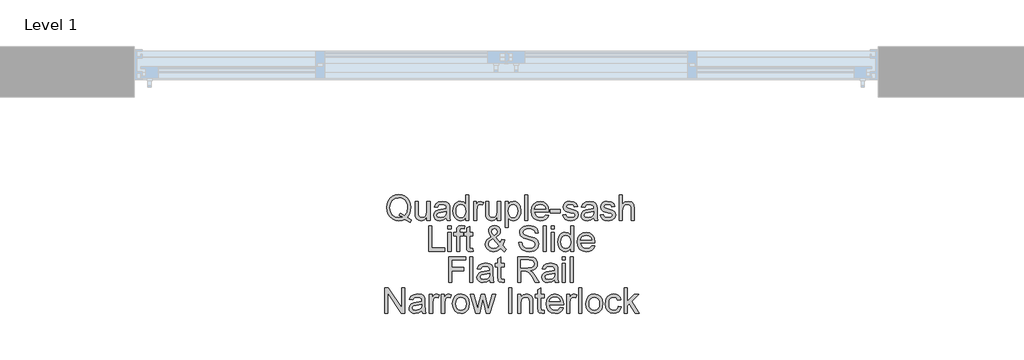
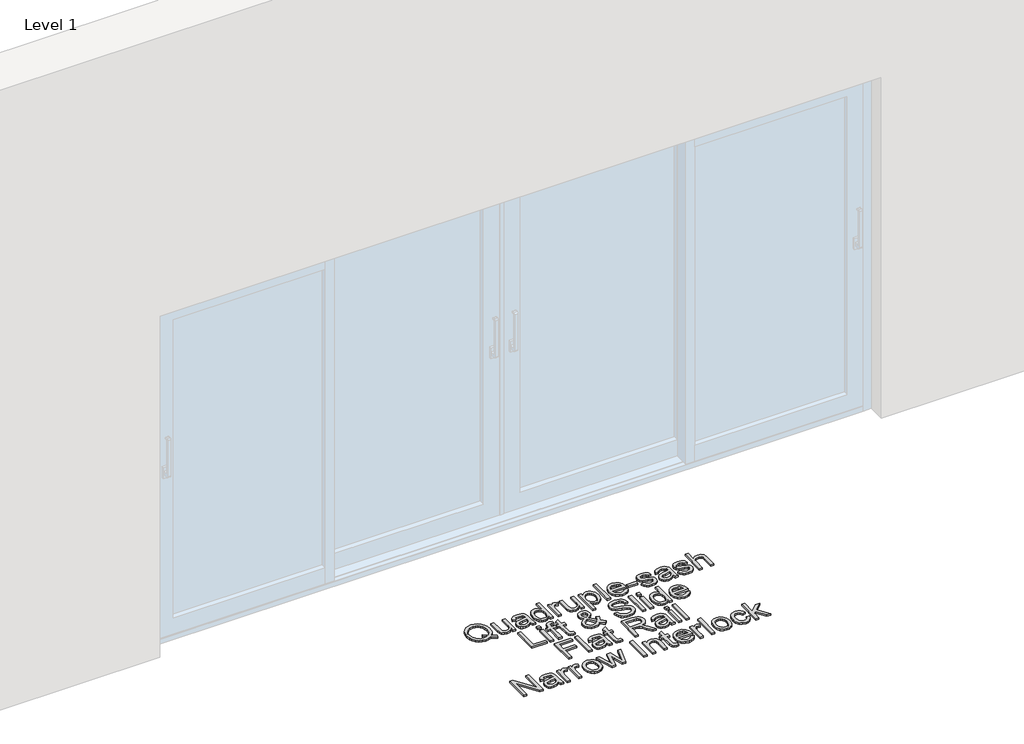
# One storey, part 6 of 7: 1 proxy.
"""IFC4 building model written with IfcOpenShell, lengths in millimetres."""

import ifcopenshell
import ifcopenshell.guid

model = None  # the IFC model being written
_history = None  # IfcOwnerHistory: only IFC2X3 demands one
_inside = {}  # id of a spatial element -> (the spatial element, [elements in it])
_under = {}  # id of a project, library or spatial element -> (it, [spatial elements below it])
_declared = {}  # id of a project -> (the project, [libraries it declares])
_typed = {}  # id of a type object -> (the type object, [elements of that type])
_made_of = {}  # id of a material, layer set ... -> (it, [elements and type objects made of it])


def new_model(schema):
    """Start an empty IFC model of exactly this schema.

    Asked for "IFC4X3", IfcOpenShell would pick the latest addendum, in which some entities
    have other attributes; the version numbers below select the first issue.
    IFC2X3 requires an IfcOwnerHistory on every rooted entity: one is made here for all.
    """
    global model, _history
    if schema == "IFC4X3":
        model = ifcopenshell.file(schema_version=(4, 3, 0, 0))
    else:
        model = ifcopenshell.file(schema=schema)
    _inside.clear()
    _under.clear()
    _declared.clear()
    _typed.clear()
    _made_of.clear()
    _history = None
    if model.schema == "IFC2X3":
        org = make("IfcOrganization", Name="unknown")
        user = make(
            "IfcPersonAndOrganization",
            ThePerson=make("IfcPerson", FamilyName="unknown"),
            TheOrganization=org,
        )
        app = make(
            "IfcApplication",
            ApplicationDeveloper=org,
            Version="unknown",
            ApplicationFullName="unknown",
            ApplicationIdentifier="unknown",
        )
        _history = make(
            "IfcOwnerHistory",
            OwningUser=user,
            OwningApplication=app,
            ChangeAction="ADDED",
            CreationDate=0,
        )
    return model


def make(cls, **values):
    """One entity of the class cls with the attributes given. An attribute that is None is left unset."""
    return model.create_entity(
        cls, **{name: value for name, value in values.items() if value is not None}
    )


def rooted(cls, **values):
    """An entity with a GlobalId (a new one), such as an element, a storey or a relation."""
    return make(cls, GlobalId=ifcopenshell.guid.new(), OwnerHistory=_history, **values)


def si_unit(unit_type, name, prefix=None):
    """IfcSIUnit, for example si_unit("LENGTHUNIT", "METRE", prefix="MILLI")."""
    return make("IfcSIUnit", UnitType=unit_type, Prefix=prefix, Name=name)


def assignment(units):
    """IfcUnitAssignment: the units of a project."""
    return None if units is None else make("IfcUnitAssignment", Units=units)


def point(xyz):
    """IfcCartesianPoint."""
    return None if xyz is None else make("IfcCartesianPoint", Coordinates=xyz)


def direction(xyz):
    """IfcDirection."""
    return None if xyz is None else make("IfcDirection", DirectionRatios=xyz)


def frame(location, z_axis=None, x_axis=None):
    """IfcAxis2Placement3D, a coordinate frame: its origin and axes. An axis left out is left unset."""
    return make(
        "IfcAxis2Placement3D",
        Location=point(location),
        Axis=direction(z_axis),
        RefDirection=direction(x_axis),
    )


def origin():
    """The frame at (0, 0, 0) with its axes left unset."""
    return frame((0.0, 0.0, 0.0))


def origin_with_axes():
    """The frame at (0, 0, 0) with the z axis (0, 0, 1) and the x axis (1, 0, 0) written out."""
    return frame((0.0, 0.0, 0.0), z_axis=(0.0, 0.0, 1.0), x_axis=(1.0, 0.0, 0.0))


def place(relative_to, where):
    """IfcLocalPlacement: puts the frame where relative to a parent placement (None: the world)."""
    return make(
        "IfcLocalPlacement", PlacementRelTo=relative_to, RelativePlacement=where
    )


def context(
    kind, dimensions, precision=None, world=None, true_north=None, identifier=None
):
    """IfcGeometricRepresentationContext, for example the 3D "Model" context."""
    return make(
        "IfcGeometricRepresentationContext",
        ContextIdentifier=identifier,
        ContextType=kind,
        CoordinateSpaceDimension=dimensions,
        Precision=precision,
        WorldCoordinateSystem=world,
        TrueNorth=true_north,
    )


def project(units=None, contexts=None):
    """IfcProject with its units and contexts."""
    return rooted(
        "IfcProject",
        Name="project",
        RepresentationContexts=contexts,
        UnitsInContext=assignment(units),
    )


def spatial(cls, under=None, at=None, **own):
    """A site, building, storey or space (cls), placed at a placement, below another one or the project."""
    s = rooted(cls, ObjectPlacement=at, **own)
    if under is not None:
        _under.setdefault(under.id(), (under, []))[1].append(s)
    return s


def polyline(points):
    """IfcPolyline through the points."""
    return make("IfcPolyline", Points=[point(p) for p in points])


def outline(outer, holes=None, kind="AREA"):
    """IfcArbitraryClosedProfileDef: a profile drawn as a closed curve; with holes, ...WithVoids."""
    if holes is None:
        return make("IfcArbitraryClosedProfileDef", ProfileType=kind, OuterCurve=outer)
    return make(
        "IfcArbitraryProfileDefWithVoids",
        ProfileType=kind,
        OuterCurve=outer,
        InnerCurves=holes,
    )


def extrude(swept, where, along, depth):
    """IfcExtrudedAreaSolid: the profile swept, set in the frame where, extruded along a direction by depth."""
    return make(
        "IfcExtrudedAreaSolid",
        SweptArea=swept,
        Position=where,
        ExtrudedDirection=direction(along),
        Depth=depth,
    )


def shape(context_of_items, identifier, shape_type, items):
    """IfcShapeRepresentation: the items that make up one representation, for example the "Body"."""
    return make(
        "IfcShapeRepresentation",
        ContextOfItems=context_of_items,
        RepresentationIdentifier=identifier,
        RepresentationType=shape_type,
        Items=items,
    )


def made_of(thing, what):
    """Note that an element or type object is made of a material, layer set ...; save() writes the relation."""
    if what is not None:
        _made_of.setdefault(what.id(), (what, []))[1].append(thing)
    return thing


def element(
    cls,
    number,
    at=None,
    inside=None,
    cuts=None,
    type_object=None,
    material=None,
    context=None,
    identifier="Body",
    shape_type=None,
    held_by="IfcProductDefinitionShape",
    body=None,
    shapes=None,
    **own,
):
    """One element of the class cls, such as IfcWall. Its Tag is "e" and its number.

    at: its placement. inside: the storey or other place that contains it. cuts: it is an
    opening in that element (IfcRelVoidsElement). A single representation is given by context,
    identifier, shape_type and body (its items); several are given by shapes. held_by: the class
    of the entity that holds the representations. save() writes the other relations.
    """
    e = rooted(cls, Tag="e%d" % number, ObjectPlacement=at, **own)
    if body is not None:
        shapes = [shape(context, identifier, shape_type, body)]
    if shapes is not None:
        e.Representation = make(held_by, Representations=shapes)
    if inside is not None:
        _inside.setdefault(inside.id(), (inside, []))[1].append(e)
    if cuts is not None:
        rooted(
            "IfcRelVoidsElement", RelatingBuildingElement=cuts, RelatedOpeningElement=e
        )
    if type_object is not None:
        _typed.setdefault(type_object.id(), (type_object, []))[1].append(e)
    return made_of(e, material)


def aggregate(whole, parts):
    """IfcRelAggregates: a whole, such as a stair, and the parts it consists of."""
    return rooted("IfcRelAggregates", RelatingObject=whole, RelatedObjects=parts)


def save(model, path):
    """Write the relations noted so far, then the file.

    IfcRelAggregates (storeys below a building ...), IfcRelContainedInSpatialStructure (elements
    in a storey), IfcRelDefinesByType, IfcRelAssociatesMaterial and IfcRelDeclares: one each for
    every whole, place, type object, material and project.
    """
    for whole, parts in _under.values():
        aggregate(whole, parts)
    for where, things in _inside.values():
        rooted(
            "IfcRelContainedInSpatialStructure",
            RelatedElements=things,
            RelatingStructure=where,
        )
    for kind, things in _typed.values():
        rooted("IfcRelDefinesByType", RelatedObjects=things, RelatingType=kind)
    for what, things in _made_of.values():
        rooted("IfcRelAssociatesMaterial", RelatedObjects=things, RelatingMaterial=what)
    for by, libraries in _declared.values():
        rooted("IfcRelDeclares", RelatingContext=by, RelatedDefinitions=libraries)
    model.write(path)


model = new_model("IFC4")

# Units and contexts
model_context = context("Model", 3, world=origin())
ifc_project = project(units=[si_unit("LENGTHUNIT", "METRE", prefix="MILLI")], contexts=[model_context])

# Site, building, storey
site = spatial("IfcSite", under=ifc_project)
building = spatial("IfcBuilding", under=site)
storey = spatial("IfcBuildingStorey", under=building, Name="Level 1", Elevation=0.0)

# Proxy
placement = place(None, origin())
element("IfcBuildingElementProxy", 1, Name="150mm Arial", ObjectType="150mm Arial", at=placement, inside=storey, context=model_context, shape_type="SweptSolid", body=[
    extrude(outline(polyline([(18792.9620646, -879.5997474), (18816.3225713, -895.3083086), (18811.2457998, -909.1038834), (18780.2333476, -891.4823358), (18762.8049381, -897.8834825), (18743.6290891, -900.0171981), (18724.3612696, -897.5569873), (18706.9512542, -890.1763547), (18692.3693316, -878.3397515), (18681.5857906, -862.5116287), (18674.922528, -843.5611074), (18672.7014404, -822.3573089), (18674.9179294, -801.1351163), (18681.5673965, -781.9086836), (18692.3095508, -765.855233), (18706.8041014, -754.151987), (18724.1497375, -747.0058793), (18743.4451481, -744.6238433), (18762.8923101, -747.0610616), (18780.3253181, -754.3727162), (18794.7968761, -766.0713637), (18805.3596879, -781.6695603), (18811.8160169, -800.3395715), (18813.9681266, -821.2536629), (18808.7442022, -854.1791015), (18802.1867057, -867.8367206), (18792.9620646, -879.5997474)]), holes=[polyline([(18748.8162252, -854.5469835), (18764.6535451, -860.534263), (18777.4374445, -868.8575931), (18790.7087874, -849.4334238), (18795.1325684, -822.2101561), (18793.5690699, -805.6324737), (18788.8785745, -791.2896744), (18781.1760452, -779.5450417), (18770.5764452, -770.7618591), (18757.7971444, -765.2850159), (18743.5555127, -763.4594015), (18723.0276974, -767.152017), (18706.3258548, -778.2298636), (18695.2342126, -796.6377589), (18691.5369986, -822.3205207), (18695.1928259, -847.4514595), (18706.1603079, -865.9697195), (18722.8115667, -877.3786598), (18743.5187245, -881.18164), (18763.7890224, -877.318879), (18743.9601829, -868.9679577), (18748.8162252, -854.5469835)])]), origin_with_axes(), (0.0, 0.0, 1.0), 10.0),
    extrude(outline(polyline([(18910.5003621, -897.6627533), (18910.5003621, -878.6432542), (18895.7482941, -894.6737121), (18876.5080658, -900.0171981), (18858.7945477, -896.2648018), (18846.5808654, -886.8470227), (18840.970665, -872.9778715), (18839.867019, -855.4666885), (18839.867019, -787.0038492), (18858.7025772, -787.0038492), (18858.7025772, -846.6007324), (18859.8430114, -865.8041726), (18867.2926218, -877.0797557), (18881.3273199, -881.18164), (18897.0542752, -876.9877852), (18907.4469415, -865.5650493), (18910.5003621, -844.5773814), (18910.5003621, -787.0038492), (18929.3359203, -787.0038492), (18929.3359203, -897.6627533), (18910.5003621, -897.6627533)])), origin_with_axes(), (0.0, 0.0, 1.0), 10.0),
    extrude(outline(polyline([(19025.8681558, -883.5360847), (19007.6028147, -896.30159), (18987.4244873, -900.0171981), (18971.6837364, -897.782315), (18960.072461, -891.0776656), (18952.9125576, -880.8965314), (18950.5259232, -868.2321937), (18954.1311667, -853.3329729), (18963.6041281, -842.5172423), (18976.7926976, -836.3368247), (18993.08987, -833.5041334), (19025.7577912, -827.0294103), (19025.8681558, -822.8355555), (19024.5713718, -814.4294519), (19020.6810197, -808.9296161), (19011.9806105, -804.846126), (18999.8588987, -803.4849626), (18980.8026114, -807.1086002), (18971.7159261, -819.966076), (18952.880368, -817.6116312), (18961.0289541, -799.2175314), (18977.4364911, -788.438589), (19002.2869199, -784.6494044), (19025.1139977, -787.9971306), (19038.0082616, -796.4032342), (19043.784009, -809.1871335), (19044.7037139, -825.6682469), (19044.7037139, -849.10233), (19045.6602071, -881.8254334), (19049.4126035, -897.6627533), (19030.5770453, -897.6627533), (19025.8681558, -883.5360847)]), holes=[polyline([(19025.8681558, -845.8649684), (18995.481103, -851.6407157), (18979.2759011, -854.6941363), (18971.9366553, -859.6605432), (18969.3614813, -866.9078185), (18974.9716818, -877.0981498), (18991.434401, -881.18164), (19010.4906884, -876.6750855), (19022.777947, -865.7673844), (19025.7577912, -851.1992574), (19025.8681558, -845.8649684)])]), origin_with_axes(), (0.0, 0.0, 1.0), 10.0),
    extrude(outline(polyline([(19138.8815047, -897.6627533), (19138.8815047, -879.894053), (19126.4195021, -894.9864118), (19109.1934277, -900.0171981), (19097.0165337, -898.1961822), (19085.8697092, -892.7331346), (19076.433536, -884.0097328), (19069.3885958, -872.4076544), (19065.001603, -858.3959489), (19063.5392721, -842.4436659), (19068.9287433, -812.4612833), (19075.6609838, -800.5694978), (19085.0787629, -791.8231033), (19096.4693092, -786.4428292), (19109.1198513, -784.6494044), (19126.4838815, -789.7813583), (19138.8815047, -803.1170806), (19138.8815047, -746.9782881), (19157.7170629, -746.9782881), (19157.7170629, -897.6627533), (19138.8815047, -897.6627533)]), holes=[polyline([(19082.3748303, -842.3700895), (19084.4993488, -859.4076244), (19090.8729043, -871.5247376), (19100.1343336, -878.7674144), (19110.9224731, -881.18164), (19121.7060141, -878.877779), (19130.7329185, -871.966196), (19136.8443582, -860.3181323), (19138.8815047, -843.8048292), (19136.80757, -825.7510203), (19130.5857657, -813.2338354), (19121.328935, -805.9221808), (19110.1499209, -803.4849626), (19099.2514168, -805.8256118), (19090.3210814, -812.8475594), (19084.361393, -824.9094903), (19082.3748303, -842.3700895)])]), origin_with_axes(), (0.0, 0.0, 1.0), 10.0),
    extrude(outline(polyline([(19185.9704001, -897.6627533), (19185.9704001, -787.0038492), (19202.4515135, -787.0038492), (19202.4515135, -803.374598), (19214.1501609, -788.2914362), (19225.9223848, -784.6494044), (19244.8315193, -790.4619399), (19238.5407372, -807.3477235), (19225.2969854, -803.4849626), (19214.6468016, -807.2005707), (19207.8593788, -817.5012666), (19204.8059582, -839.5006099), (19204.8059582, -897.6627533), (19185.9704001, -897.6627533)])), origin_with_axes(), (0.0, 0.0, 1.0), 10.0),
    extrude(outline(polyline([(19327.2370862, -897.6627533), (19327.2370862, -878.6432542), (19312.4850182, -894.6737121), (19293.2447899, -900.0171981), (19275.5312718, -896.2648018), (19263.3175896, -886.8470227), (19257.7073892, -872.9778715), (19256.6037432, -855.4666885), (19256.6037432, -787.0038492), (19275.4393013, -787.0038492), (19275.4393013, -846.6007324), (19276.5797355, -865.8041726), (19284.0293459, -877.0797557), (19298.064044, -881.18164), (19313.7909993, -876.9877852), (19324.1836657, -865.5650493), (19327.2370862, -844.5773814), (19327.2370862, -787.0038492), (19346.0726444, -787.0038492), (19346.0726444, -897.6627533), (19327.2370862, -897.6627533)])), origin_with_axes(), (0.0, 0.0, 1.0), 10.0),
    extrude(outline(polyline([(19371.9715369, -940.0427592), (19371.9715369, -787.0038492), (19390.807095, -787.0038492), (19390.807095, -805.4715254), (19403.8301176, -789.8549347), (19421.414877, -784.6494044), (19434.1527911, -786.4704203), (19445.2904185, -791.9334679), (19454.3587097, -800.7074535), (19460.8886151, -812.4612833), (19466.1493276, -841.4871727), (19464.6640041, -857.5958055), (19460.2080334, -872.0029842), (19452.9239699, -883.9775431), (19442.9543678, -892.7883169), (19431.3430924, -898.2099778), (19419.1340086, -900.0171981), (19402.7448658, -895.1795499), (19390.807095, -882.9474735), (19390.807095, -940.0427592), (19371.9715369, -940.0427592)]), holes=[polyline([(19390.807095, -843.2162181), (19392.8442416, -860.1020016), (19398.9556812, -871.9110137), (19407.9733886, -878.8639834), (19418.7293384, -881.18164), (19429.6600322, -878.7812099), (19438.9076659, -871.5799199), (19445.2122436, -859.3386465), (19447.3137695, -841.8182665), (19445.2628273, -825.0244534), (19439.110001, -813.0498945), (19430.1060891, -805.8761955), (19419.5018906, -803.4849626), (19408.8563054, -806.0279469), (19399.5075042, -813.6568997), (19392.9821973, -826.1326979), (19390.807095, -843.2162181)])]), origin_with_axes(), (0.0, 0.0, 1.0), 10.0),
    extrude(outline(polyline([(19487.3393305, -897.6627533), (19487.3393305, -746.9782881), (19506.1748887, -746.9782881), (19506.1748887, -897.6627533), (19487.3393305, -897.6627533)])), origin_with_axes(), (0.0, 0.0, 1.0), 10.0),
    extrude(outline(polyline([(19611.9041741, -864.7005266), (19630.3718503, -867.0549713), (19623.7177847, -880.9701078), (19613.0997906, -891.3719712), (19598.7569913, -897.8558914), (19580.9285101, -900.0171981), (19558.8279993, -896.2877944), (19541.822654, -885.0995832), (19530.9793322, -867.1791315), (19527.3648916, -843.2530063), (19531.0161204, -818.5221391), (19541.9698068, -800.0268718), (19558.7452258, -788.4937713), (19579.8616523, -784.6494044), (19600.3204898, -788.4845742), (19616.6682459, -799.9900836), (19627.3874076, -818.4485627), (19630.9604615, -843.1426417), (19630.8500969, -848.2194132), (19546.2004498, -848.2194132), (19549.460804, -862.3184907), (19557.0345745, -872.6835659), (19567.9652683, -879.0571214), (19581.2963921, -881.18164), (19599.7640683, -877.2453026), (19611.9041741, -864.7005266)]), holes=[polyline([(19546.2004498, -829.383855), (19612.1249033, -829.383855), (19609.5773205, -819.4326471), (19604.5833224, -812.3141305), (19593.6020449, -805.6922545), (19579.7880759, -803.4849626), (19567.0915486, -805.2461976), (19556.5931161, -810.5299028), (19549.2952571, -818.765861), (19546.2004498, -829.383855)])]), origin_with_axes(), (0.0, 0.0, 1.0), 10.0),
    extrude(outline(polyline([(19640.3782405, -852.9283027), (19640.3782405, -834.0927446), (19699.2393598, -834.0927446), (19699.2393598, -852.9283027), (19640.3782405, -852.9283027)])), origin_with_axes(), (0.0, 0.0, 1.0), 10.0),
    extrude(outline(polyline([(19713.3660284, -864.7005266), (19732.2015865, -862.3460818), (19735.1722336, -870.4026975), (19740.9203898, -876.3255976), (19760.8963822, -881.18164), (19780.0998223, -876.7302678), (19786.3538162, -866.2824192), (19784.7811207, -861.4815591), (19780.0630341, -857.8211333), (19760.675653, -852.4500561), (19732.3119511, -843.2346122), (19719.932722, -832.4740638), (19715.7204732, -817.2805374), (19719.1049875, -803.2458393), (19728.3388256, -792.5220791), (19740.3133845, -786.9486669), (19756.5185864, -784.6494044), (19779.4376347, -788.3466185), (19794.0057617, -798.3530087), (19800.4804848, -815.2571864), (19781.6449267, -817.6116312), (19774.5631983, -807.2189648), (19757.9901144, -803.4849626), (19739.9638966, -807.0534179), (19734.5560313, -815.367551), (19736.8001115, -820.8489927), (19743.8266576, -825.0060593), (19760.0502536, -829.015973), (19787.6965855, -837.8819291), (19800.5356671, -847.9251076), (19805.1893744, -864.2958564), (19799.7263267, -882.3220741), (19783.9625833, -895.4002791), (19760.6388648, -900.0171981), (19741.6469568, -897.791512), (19727.7870026, -891.1144538), (19718.5347704, -880.0595999), (19713.3660284, -864.7005266)])), origin_with_axes(), (0.0, 0.0, 1.0), 10.0),
    extrude(outline(polyline([(19897.0127204, -883.5360847), (19878.7473793, -896.30159), (19858.5690519, -900.0171981), (19842.828301, -897.782315), (19831.2170255, -891.0776656), (19824.0571222, -880.8965314), (19821.6704878, -868.2321937), (19825.2757313, -853.3329729), (19834.7486927, -842.5172423), (19847.9372622, -836.3368247), (19864.2344346, -833.5041334), (19896.9023558, -827.0294103), (19897.0127204, -822.8355555), (19895.7159363, -814.4294519), (19891.8255842, -808.9296161), (19883.1251751, -804.846126), (19871.0034633, -803.4849626), (19851.947176, -807.1086002), (19842.8604907, -819.966076), (19824.0249325, -817.6116312), (19832.1735187, -799.2175314), (19848.5810557, -788.438589), (19873.4314845, -784.6494044), (19896.2585623, -787.9971306), (19909.1528262, -796.4032342), (19914.9285735, -809.1871335), (19915.8482785, -825.6682469), (19915.8482785, -849.10233), (19916.8047717, -881.8254334), (19920.5571681, -897.6627533), (19901.7216099, -897.6627533), (19897.0127204, -883.5360847)]), holes=[polyline([(19897.0127204, -845.8649684), (19866.6256676, -851.6407157), (19850.4204657, -854.6941363), (19843.0812199, -859.6605432), (19840.5060459, -866.9078185), (19846.1162463, -877.0981498), (19862.5789656, -881.18164), (19881.635253, -876.6750855), (19893.9225116, -865.7673844), (19896.9023558, -851.1992574), (19897.0127204, -845.8649684)])]), origin_with_axes(), (0.0, 0.0, 1.0), 10.0),
    extrude(outline(polyline([(19934.6838367, -864.7005266), (19953.5193948, -862.3460818), (19956.4900419, -870.4026975), (19962.2381981, -876.3255976), (19982.2141905, -881.18164), (20001.4176306, -876.7302678), (20007.6716245, -866.2824192), (20006.098929, -861.4815591), (20001.3808424, -857.8211333), (19981.9934613, -852.4500561), (19953.6297594, -843.2346122), (19941.2505303, -832.4740638), (19937.0382814, -817.2805374), (19940.4227958, -803.2458393), (19949.6566339, -792.5220791), (19961.6311928, -786.9486669), (19977.8363947, -784.6494044), (20000.755443, -788.3466185), (20015.32357, -798.3530087), (20021.7982931, -815.2571864), (20002.962735, -817.6116312), (19995.8810066, -807.2189648), (19979.3079227, -803.4849626), (19961.2817049, -807.0534179), (19955.8738396, -815.367551), (19958.1179198, -820.8489927), (19965.1444659, -825.0060593), (19981.3680619, -829.015973), (20009.0143938, -837.8819291), (20021.8534754, -847.9251076), (20026.5071827, -864.2958564), (20021.044135, -882.3220741), (20005.2803916, -895.4002791), (19981.9566731, -900.0171981), (19962.9647651, -897.791512), (19949.1048109, -891.1144538), (19939.8525787, -880.0595999), (19934.6838367, -864.7005266)])), origin_with_axes(), (0.0, 0.0, 1.0), 10.0),
    extrude(outline(polyline([(20047.6971856, -897.6627533), (20047.6971856, -746.9782881), (20066.5327438, -746.9782881), (20066.5327438, -802.3813166), (20081.2204324, -789.0823825), (20099.3110295, -784.6494044), (20120.4642442, -789.4870527), (20133.3033259, -802.8595632), (20137.1660868, -827.6180215), (20137.1660868, -897.6627533), (20118.3305287, -897.6627533), (20118.3305287, -829.567796), (20116.8314095, -817.7771781), (20112.3340522, -809.7021683), (20105.0867768, -805.039264), (20095.337904, -803.4849626), (20079.9052543, -807.6788173), (20069.6045584, -819.046371), (20066.5327438, -838.8752105), (20066.5327438, -897.6627533), (20047.6971856, -897.6627533)])), origin_with_axes(), (0.0, 0.0, 1.0), 10.0),
    extrude(outline(polyline([(18921.0953636, -1080.6249801), (18921.0953636, -929.9405149), (18939.9309217, -929.9405149), (18939.9309217, -1061.789422), (19015.2731543, -1061.789422), (19015.2731543, -1080.6249801), (18921.0953636, -1080.6249801)])), origin_with_axes(), (0.0, 0.0, 1.0), 10.0),
    extrude(outline(polyline([(19034.1087125, -948.776073), (19034.1087125, -929.9405149), (19052.9442706, -929.9405149), (19052.9442706, -948.776073), (19034.1087125, -948.776073)])), origin_with_axes(), (0.0, 0.0, 1.0), 10.0),
    extrude(outline(polyline([(19034.1087125, -1080.6249801), (19034.1087125, -969.966076), (19052.9442706, -969.966076), (19052.9442706, -1080.6249801), (19034.1087125, -1080.6249801)])), origin_with_axes(), (0.0, 0.0, 1.0), 10.0),
    extrude(outline(polyline([(19182.4387329, -1064.9164189), (19184.7931777, -1081.1768031), (19170.7032973, -1082.9794249), (19154.9211597, -1079.8524279), (19147.048485, -1071.6486594), (19144.7676166, -1050.2747155), (19144.7676166, -988.8016341), (19130.640948, -988.8016341), (19130.640948, -969.966076), (19144.7676166, -969.966076), (19144.7676166, -943.0739021), (19163.6031748, -932.0006541), (19163.6031748, -969.966076), (19182.4387329, -969.966076), (19182.4387329, -988.8016341), (19163.6031748, -988.8016341), (19163.6031748, -1049.7228925), (19164.5964562, -1059.4349772), (19167.8154236, -1062.8746738), (19174.2349645, -1064.1438667), (19182.4387329, -1064.9164189)])), origin_with_axes(), (0.0, 0.0, 1.0), 10.0),
    extrude(outline(polyline([(19085.9064974, -1080.6249801), (19085.9064974, -988.8016341), (19069.425384, -988.8016341), (19069.425384, -969.966076), (19085.9064974, -969.966076), (19085.9064974, -958.8192515), (19087.8930602, -943.1106903), (19097.5315685, -931.8902895), (19116.5142794, -927.5860701), (19133.6943686, -929.6462093), (19130.9352536, -947.3045451), (19120.0827348, -946.4216283), (19108.2185404, -949.5486252), (19104.7420556, -961.2104845), (19104.7420556, -969.966076), (19125.9320585, -969.966076), (19125.9320585, -988.8016341), (19104.7420556, -988.8016341), (19104.7420556, -1080.6249801), (19085.9064974, -1080.6249801)])), origin_with_axes(), (0.0, 0.0, 1.0), 10.0),
    extrude(outline(polyline([(19346.550891, -1062.0101512), (19326.5748987, -1077.7371064), (19303.214392, -1082.9794249), (19282.4290592, -1079.0982698), (19266.4261924, -1067.4548047), (19258.1764387, -1054.054703), (19255.4265208, -1039.1646793), (19257.6384113, -1025.9669127), (19264.2740828, -1014.1119154), (19275.3059441, -1003.6088844), (19290.7064041, -994.4670168), (19277.5546228, -975.4107295), (19274.2620789, -961.2840609), (19276.855647, -948.5645409), (19284.6363512, -937.6292486), (19296.3441957, -930.0968647), (19310.7191847, -927.5860701), (19324.3951978, -929.9865001), (19335.3304901, -937.1877902), (19342.504189, -947.7552005), (19344.895422, -960.2539913), (19343.1249899, -970.7478252), (19337.8136936, -980.4507128), (19316.5685084, -997.4836492), (19343.8285642, -1031.4391574), (19351.9587563, -1010.5802482), (19370.7943145, -1014.6637384), (19357.4769862, -1045.6761906), (19380.2120935, -1068.4848743), (19366.0854249, -1082.9794249), (19346.550891, -1062.0101512)]), holes=[polyline([(19307.0403647, -985.6010608), (19322.5281967, -973.9208074), (19326.0598639, -962.8291653), (19321.4061566, -951.0017591), (19309.7626915, -946.4216283), (19297.8617089, -950.9649709), (19293.0976371, -962.0566131), (19294.7163179, -968.9544005), (19299.6091484, -976.6247401), (19307.0403647, -985.6010608)]), polyline([(19333.9325386, -1048.4353055), (19300.3081242, -1006.4599699), (19279.614762, -1022.2421075), (19274.2620789, -1036.6630817), (19276.0922919, -1045.5474319), (19281.5829306, -1054.7628758), (19290.4304926, -1061.798619), (19302.3314752, -1064.1438667), (19319.640323, -1059.766071), (19333.9325386, -1048.4353055)])]), origin_with_axes(), (0.0, 0.0, 1.0), 10.0),
    extrude(outline(polyline([(19453.1998814, -1028.8271952), (19472.0354395, -1028.8271952), (19478.1054925, -1047.6811474), (19492.9311369, -1059.6005241), (19515.5190914, -1064.1438667), (19535.2007781, -1060.7041701), (19547.9111011, -1051.2496028), (19552.0865617, -1038.6128563), (19548.9595647, -1026.8590265), (19536.1572713, -1018.3057701), (19508.7316686, -1011.1136771), (19479.2091385, -1001.8246567), (19463.1878776, -987.8083527), (19457.9087709, -969.0831592), (19459.5412473, -958.0512978), (19464.4386763, -947.7643976), (19472.4722994, -939.0455943), (19483.5133578, -932.7180239), (19511.4356012, -927.5860701), (19541.2340428, -932.9571472), (19552.6567788, -939.5882202), (19561.0996706, -948.7392848), (19566.4431566, -959.840124), (19568.5676751, -972.3205207), (19549.7321169, -972.3205207), (19546.2740262, -961.0817258), (19539.0635391, -952.9699278), (19527.797153, -948.0587031), (19512.1713652, -946.4216283), (19496.1776955, -948.040309), (19485.205615, -952.8963514), (19478.8596506, -960.0424591), (19476.7443291, -968.5313362), (19478.2434482, -975.7694144), (19482.7408056, -981.591147), (19513.4957404, -992.1125721), (19546.8258492, -1001.5671393), (19557.5634049, -1008.4005474), (19565.054402, -1016.8342421), (19569.4551904, -1026.7762531), (19570.9221198, -1038.1346097), (19569.2344612, -1049.7458851), (19564.1714852, -1060.6673819), (19555.9401256, -1070.0667668), (19544.7473159, -1077.1117071), (19531.2874334, -1081.5124954), (19516.2548554, -1082.9794249), (19497.8009748, -1081.3975323), (19482.6120469, -1076.6518546), (19470.5133278, -1068.7239976), (19461.3300735, -1057.5955672), (19455.4347645, -1044.0391157), (19453.1998814, -1028.8271952)])), origin_with_axes(), (0.0, 0.0, 1.0), 10.0),
    extrude(outline(polyline([(19596.8210123, -1080.6249801), (19596.8210123, -929.9405149), (19615.6565705, -929.9405149), (19615.6565705, -1080.6249801), (19596.8210123, -1080.6249801)])), origin_with_axes(), (0.0, 0.0, 1.0), 10.0),
    extrude(outline(polyline([(19643.9099077, -948.776073), (19643.9099077, -929.9405149), (19662.7454658, -929.9405149), (19662.7454658, -948.776073), (19643.9099077, -948.776073)])), origin_with_axes(), (0.0, 0.0, 1.0), 10.0),
    extrude(outline(polyline([(19643.9099077, -1080.6249801), (19643.9099077, -969.966076), (19662.7454658, -969.966076), (19662.7454658, -1080.6249801), (19643.9099077, -1080.6249801)])), origin_with_axes(), (0.0, 0.0, 1.0), 10.0),
    extrude(outline(polyline([(19759.2777014, -1080.6249801), (19759.2777014, -1062.8562797), (19746.8156988, -1077.9486386), (19729.5896244, -1082.9794249), (19717.4127303, -1081.158409), (19706.2659059, -1075.6953614), (19696.8297327, -1066.9719596), (19689.7847925, -1055.3698811), (19685.3977997, -1041.3581756), (19683.9354688, -1025.4058926), (19689.32494, -995.42351), (19696.0571805, -983.5317245), (19705.4749596, -974.7853301), (19716.8655059, -969.4050559), (19729.516048, -967.6116312), (19746.8800781, -972.743585), (19759.2777014, -986.0793073), (19759.2777014, -929.9405149), (19778.1132595, -929.9405149), (19778.1132595, -1080.6249801), (19759.2777014, -1080.6249801)]), holes=[polyline([(19702.7710269, -1025.3323162), (19704.8955454, -1042.3698511), (19711.269101, -1054.4869644), (19720.5305302, -1061.7296411), (19731.3186697, -1064.1438667), (19742.1022107, -1061.8400057), (19751.1291152, -1054.9284227), (19757.2405548, -1043.2803591), (19759.2777014, -1026.767056), (19757.2037666, -1008.7132471), (19750.9819624, -996.1960622), (19741.7251317, -988.8844076), (19730.5461176, -986.4471893), (19719.6476134, -988.7878385), (19710.717278, -995.8097861), (19704.7575897, -1007.871717), (19702.7710269, -1025.3323162)])]), origin_with_axes(), (0.0, 0.0, 1.0), 10.0),
    extrude(outline(polyline([(19883.8425449, -1047.6627533), (19902.3102211, -1050.0171981), (19895.6561555, -1063.9323346), (19885.0381614, -1074.334198), (19870.6953621, -1080.8181182), (19852.866881, -1082.9794249), (19830.7663701, -1079.2500212), (19813.7610249, -1068.06181), (19802.9177031, -1050.1413583), (19799.3032625, -1026.215233), (19802.9544913, -1001.4843659), (19813.9081777, -982.9890986), (19830.6835966, -971.455998), (19851.8000232, -967.6116312), (19872.2588606, -971.446801), (19888.6066168, -982.9523104), (19899.3257784, -1001.4107895), (19902.8988323, -1026.1048684), (19902.7884677, -1031.18164), (19818.1388206, -1031.18164), (19821.3991748, -1045.2807174), (19828.9729454, -1055.6457926), (19839.9036391, -1062.0193482), (19853.2347629, -1064.1438667), (19871.7024391, -1060.2075294), (19883.8425449, -1047.6627533)]), holes=[polyline([(19818.1388206, -1012.3460818), (19884.0632741, -1012.3460818), (19881.5156913, -1002.3948738), (19876.5216932, -995.2763572), (19865.5404157, -988.6544813), (19851.7264468, -986.4471893), (19839.0299194, -988.2084244), (19828.531487, -993.4921296), (19821.2336279, -1001.7280877), (19818.1388206, -1012.3460818)])]), origin_with_axes(), (0.0, 0.0, 1.0), 10.0),
    extrude(outline(polyline([(19038.817602, -1263.5872069), (19038.817602, -1112.9027417), (19140.0587271, -1112.9027417), (19140.0587271, -1131.7382998), (19057.6531602, -1131.7382998), (19057.6531602, -1176.4727504), (19128.2865033, -1176.4727504), (19128.2865033, -1195.3083086), (19057.6531602, -1195.3083086), (19057.6531602, -1263.5872069), (19038.817602, -1263.5872069)])), origin_with_axes(), (0.0, 0.0, 1.0), 10.0),
    extrude(outline(polyline([(19163.6031748, -1263.5872069), (19163.6031748, -1112.9027417), (19182.4387329, -1112.9027417), (19182.4387329, -1263.5872069), (19163.6031748, -1263.5872069)])), origin_with_axes(), (0.0, 0.0, 1.0), 10.0),
    extrude(outline(polyline([(19281.3254132, -1249.4605383), (19263.0600722, -1262.2260435), (19242.8817448, -1265.9416516), (19227.1409939, -1263.7067685), (19215.5297184, -1257.0021192), (19208.3698151, -1246.8209849), (19205.9831806, -1234.1566473), (19209.5884242, -1219.2574265), (19219.0613856, -1208.4416958), (19232.2499551, -1202.2612783), (19248.5471275, -1199.4285869), (19281.2150486, -1192.9538638), (19281.3254132, -1188.7600091), (19280.0286292, -1180.3539055), (19276.1382771, -1174.8540696), (19267.4378679, -1170.7705795), (19255.3161562, -1169.4094161), (19236.2598688, -1173.0330538), (19227.1731836, -1185.8905295), (19208.3376254, -1183.5360847), (19216.4862116, -1165.141985), (19232.8937486, -1154.3630425), (19257.7441774, -1150.573858), (19280.5712552, -1153.9215841), (19293.4655191, -1162.3276877), (19299.2412664, -1175.111587), (19300.1609714, -1191.5927004), (19300.1609714, -1215.0267835), (19301.1174646, -1247.749887), (19304.8698609, -1263.5872069), (19286.0343028, -1263.5872069), (19281.3254132, -1249.4605383)]), holes=[polyline([(19281.3254132, -1211.789422), (19250.9383604, -1217.5651693), (19234.7331586, -1220.6185898), (19227.3939128, -1225.5849968), (19224.8187388, -1232.8322721), (19230.4289392, -1243.0226033), (19246.8916585, -1247.1060935), (19265.9479458, -1242.5995391), (19278.2352045, -1231.6918379), (19281.2150486, -1217.1237109), (19281.3254132, -1211.789422)])]), origin_with_axes(), (0.0, 0.0, 1.0), 10.0),
    extrude(outline(polyline([(19366.0854249, -1247.8786457), (19368.4398697, -1264.1390299), (19354.3499893, -1265.9416516), (19338.5678517, -1262.8146547), (19330.695177, -1254.6108862), (19328.4143086, -1233.2369423), (19328.4143086, -1171.7638609), (19314.28764, -1171.7638609), (19314.28764, -1152.9283027), (19328.4143086, -1152.9283027), (19328.4143086, -1126.0361289), (19347.2498668, -1114.9628808), (19347.2498668, -1152.9283027), (19366.0854249, -1152.9283027), (19366.0854249, -1171.7638609), (19347.2498668, -1171.7638609), (19347.2498668, -1232.6851193), (19348.2431482, -1242.397204), (19351.4621156, -1245.8369006), (19357.8816564, -1247.1060935), (19366.0854249, -1247.8786457)])), origin_with_axes(), (0.0, 0.0, 1.0), 10.0),
    extrude(outline(polyline([(19446.1365471, -1263.5872069), (19446.1365471, -1112.9027417), (19511.0677192, -1112.9027417), (19541.2156487, -1116.9678377), (19550.4954721, -1122.5964322), (19557.6967621, -1131.3520237), (19562.3182797, -1142.2091411), (19563.8587855, -1154.1423133), (19561.3066042, -1168.9863518), (19553.6500602, -1181.2920046), (19540.6592272, -1190.3143105), (19522.1041791, -1195.3083086), (19532.8095451, -1203.3649243), (19548.0766479, -1222.7523054), (19573.2029882, -1263.5872069), (19551.3140095, -1263.5872069), (19531.7058992, -1232.3540255), (19517.5424423, -1211.6790574), (19507.5912344, -1201.9117904), (19498.6333078, -1198.3249409), (19487.7072125, -1197.6627533), (19464.9721052, -1197.6627533), (19464.9721052, -1263.5872069), (19446.1365471, -1263.5872069)]), holes=[polyline([(19464.9721052, -1178.8271952), (19507.1313819, -1178.8271952), (19528.6340845, -1176.1600507), (19540.8477667, -1167.6251884), (19545.0232274, -1154.8412891), (19543.0320661, -1145.6534363), (19537.0585822, -1138.2498111), (19526.780879, -1133.3661776), (19511.8770596, -1131.7382998), (19464.9721052, -1131.7382998), (19464.9721052, -1178.8271952)])]), origin_with_axes(), (0.0, 0.0, 1.0), 10.0),
    extrude(outline(polyline([(19665.0999106, -1249.4605383), (19646.8345696, -1262.2260435), (19626.6562421, -1265.9416516), (19610.9154913, -1263.7067685), (19599.3042158, -1257.0021192), (19592.1443124, -1246.8209849), (19589.757678, -1234.1566473), (19593.3629216, -1219.2574265), (19602.8358829, -1208.4416958), (19616.0244525, -1202.2612783), (19632.3216248, -1199.4285869), (19664.989546, -1192.9538638), (19665.0999106, -1188.7600091), (19663.8031266, -1180.3539055), (19659.9127745, -1174.8540696), (19651.2123653, -1170.7705795), (19639.0906536, -1169.4094161), (19620.0343662, -1173.0330538), (19610.9476809, -1185.8905295), (19592.1121228, -1183.5360847), (19600.260709, -1165.141985), (19616.6682459, -1154.3630425), (19641.5186747, -1150.573858), (19664.3457525, -1153.9215841), (19677.2400165, -1162.3276877), (19683.0157638, -1175.111587), (19683.9354688, -1191.5927004), (19683.9354688, -1215.0267835), (19684.891962, -1247.749887), (19688.6443583, -1263.5872069), (19669.8088002, -1263.5872069), (19665.0999106, -1249.4605383)]), holes=[polyline([(19665.0999106, -1211.789422), (19634.7128578, -1217.5651693), (19618.5076559, -1220.6185898), (19611.1684101, -1225.5849968), (19608.5932362, -1232.8322721), (19614.2034366, -1243.0226033), (19630.6661559, -1247.1060935), (19649.7224432, -1242.5995391), (19662.0097019, -1231.6918379), (19664.989546, -1217.1237109), (19665.0999106, -1211.789422)])]), origin_with_axes(), (0.0, 0.0, 1.0), 10.0),
    extrude(outline(polyline([(19709.8343612, -1131.7382998), (19709.8343612, -1112.9027417), (19728.6699194, -1112.9027417), (19728.6699194, -1131.7382998), (19709.8343612, -1131.7382998)])), origin_with_axes(), (0.0, 0.0, 1.0), 10.0),
    extrude(outline(polyline([(19709.8343612, -1263.5872069), (19709.8343612, -1152.9283027), (19728.6699194, -1152.9283027), (19728.6699194, -1263.5872069), (19709.8343612, -1263.5872069)])), origin_with_axes(), (0.0, 0.0, 1.0), 10.0),
    extrude(outline(polyline([(19756.9232566, -1263.5872069), (19756.9232566, -1112.9027417), (19775.7588148, -1112.9027417), (19775.7588148, -1263.5872069), (19756.9232566, -1263.5872069)])), origin_with_axes(), (0.0, 0.0, 1.0), 10.0),
    extrude(outline(polyline([(18660.9292166, -1446.5494336), (18660.9292166, -1295.8649684), (18681.0891499, -1295.8649684), (18759.8158969, -1415.2426759), (18759.8158969, -1295.8649684), (18778.651455, -1295.8649684), (18778.651455, -1446.5494336), (18758.4915217, -1446.5494336), (18679.7647747, -1327.134938), (18679.7647747, -1446.5494336), (18660.9292166, -1446.5494336)])), origin_with_axes(), (0.0, 0.0, 1.0), 10.0),
    extrude(outline(polyline([(18879.8925801, -1432.422765), (18861.627239, -1445.1882703), (18841.4489116, -1448.9038784), (18825.7081607, -1446.6689953), (18814.0968853, -1439.9643459), (18806.9369819, -1429.7832117), (18804.5503475, -1417.118874), (18808.155591, -1402.2196532), (18817.6285524, -1391.4039226), (18830.817122, -1385.223505), (18847.1142943, -1382.3908137), (18879.7822155, -1375.9160906), (18879.8925801, -1371.7222358), (18878.5957961, -1363.3161322), (18874.705444, -1357.8162964), (18866.0050348, -1353.7328063), (18853.8833231, -1352.3716429), (18834.8270357, -1355.9952805), (18825.7403504, -1368.8527563), (18806.9047923, -1366.4983115), (18815.0533785, -1348.1042117), (18831.4609154, -1337.3252693), (18856.3113442, -1333.5360847), (18879.138422, -1336.8838109), (18892.032686, -1345.2899145), (18897.8084333, -1358.0738138), (18898.7281383, -1374.5549272), (18898.7281383, -1397.9890103), (18899.6846314, -1430.7121138), (18903.4370278, -1446.5494336), (18884.6014696, -1446.5494336), (18879.8925801, -1432.422765)]), holes=[polyline([(18879.8925801, -1394.7516487), (18849.5055273, -1400.527396), (18833.3003254, -1403.5808166), (18825.9610796, -1408.5472235), (18823.3859057, -1415.7944988), (18828.9961061, -1425.9848301), (18845.4588254, -1430.0683203), (18864.5151127, -1425.5617658), (18876.8023713, -1414.6540647), (18879.7822155, -1400.0859377), (18879.8925801, -1394.7516487)])]), origin_with_axes(), (0.0, 0.0, 1.0), 10.0),
    extrude(outline(polyline([(18924.6270307, -1446.5494336), (18924.6270307, -1335.8905295), (18941.1081441, -1335.8905295), (18941.1081441, -1352.2612783), (18952.8067916, -1337.1781165), (18964.5790154, -1333.5360847), (18983.48815, -1339.3486203), (18977.1973678, -1356.2344038), (18963.953616, -1352.3716429), (18953.3034322, -1356.087251), (18946.5160094, -1366.3879469), (18943.4625889, -1388.3872902), (18943.4625889, -1446.5494336), (18924.6270307, -1446.5494336)])), origin_with_axes(), (0.0, 0.0, 1.0), 10.0),
    extrude(outline(polyline([(18995.2603738, -1446.5494336), (18995.2603738, -1335.8905295), (19011.7414872, -1335.8905295), (19011.7414872, -1352.2612783), (19023.4401346, -1337.1781165), (19035.2123585, -1333.5360847), (19054.121493, -1339.3486203), (19047.8307109, -1356.2344038), (19034.5869591, -1352.3716429), (19023.9367753, -1356.087251), (19017.1493525, -1366.3879469), (19014.0959319, -1388.3872902), (19014.0959319, -1446.5494336), (18995.2603738, -1446.5494336)])), origin_with_axes(), (0.0, 0.0, 1.0), 10.0),
    extrude(outline(polyline([(19061.1848273, -1391.2199816), (19065.2591204, -1364.5393399), (19077.4819997, -1345.7865552), (19092.5835556, -1336.5987023), (19110.6649557, -1333.5360847), (19130.4524085, -1337.2654885), (19146.2575387, -1348.4536996), (19156.6180154, -1366.2178015), (19160.0715076, -1389.6748772), (19158.5447974, -1408.7035734), (19153.9646665, -1423.188927), (19146.4644723, -1434.0368473), (19136.177572, -1442.1532438), (19123.9592913, -1447.2162198), (19110.6649557, -1448.9038784), (19090.6383796, -1445.1882703), (19074.8516435, -1434.0414458), (19064.6015314, -1415.9048634), (19061.1848273, -1391.2199816)]), holes=[polyline([(19080.0203855, -1391.1831934), (19082.2000863, -1408.2299253), (19088.7391888, -1420.3746297), (19098.5800321, -1427.6448976), (19110.6649557, -1430.0683203), (19122.6946969, -1427.631102), (19132.5171462, -1420.3194474), (19139.0562487, -1408.0137947), (19141.2359495, -1390.5945822), (19139.0424531, -1374.0444909), (19132.4619639, -1362.0653335), (19122.6257191, -1354.7950655), (19110.6649557, -1352.3716429), (19098.5800321, -1354.7858685), (19088.7391888, -1362.0285453), (19082.2000863, -1374.1456585), (19080.0203855, -1391.1831934)])]), origin_with_axes(), (0.0, 0.0, 1.0), 10.0),
    extrude(outline(polyline([(19199.6188221, -1446.5494336), (19165.9576196, -1335.8905295), (19185.5289417, -1335.8905295), (19204.6220173, -1400.4538196), (19210.3241882, -1423.5200207), (19214.9962895, -1401.2999482), (19230.1898159, -1335.8905295), (19252.6306176, -1335.8905295), (19267.7505676, -1401.1160072), (19271.9076342, -1421.2391524), (19277.8673225, -1400.0123613), (19296.9971862, -1335.8905295), (19316.6420848, -1335.8905295), (19282.7233648, -1446.5494336), (19259.9514693, -1446.5494336), (19245.4937069, -1381.6550497), (19241.2998522, -1361.42154), (19222.648235, -1446.5494336), (19199.6188221, -1446.5494336)])), origin_with_axes(), (0.0, 0.0, 1.0), 10.0),
    extrude(outline(polyline([(19393.1615398, -1446.5494336), (19393.1615398, -1295.8649684), (19411.9970979, -1295.8649684), (19411.9970979, -1446.5494336), (19393.1615398, -1446.5494336)])), origin_with_axes(), (0.0, 0.0, 1.0), 10.0),
    extrude(outline(polyline([(19447.3137695, -1446.5494336), (19447.3137695, -1335.8905295), (19466.1493276, -1335.8905295), (19466.1493276, -1351.3415733), (19480.5519077, -1337.9874569), (19500.2152004, -1333.5360847), (19518.0022948, -1337.1229342), (19530.1424007, -1346.5407133), (19535.7893893, -1360.3914704), (19536.7826707, -1378.6016291), (19536.7826707, -1446.5494336), (19517.9471125, -1446.5494336), (19517.9471125, -1381.1400149), (19515.7766088, -1364.4749605), (19508.1062692, -1355.6641867), (19495.175217, -1352.3716429), (19484.1433557, -1354.2202499), (19474.7393722, -1359.766071), (19468.2968388, -1370.4806341), (19466.1493276, -1387.8354672), (19466.1493276, -1446.5494336), (19447.3137695, -1446.5494336)])), origin_with_axes(), (0.0, 0.0, 1.0), 10.0),
    extrude(outline(polyline([(19602.7071242, -1430.8408725), (19605.061569, -1447.1012566), (19590.9716886, -1448.9038784), (19575.189551, -1445.7768815), (19567.3168763, -1437.573113), (19565.0360079, -1416.199169), (19565.0360079, -1354.7260876), (19550.9093393, -1354.7260876), (19550.9093393, -1335.8905295), (19565.0360079, -1335.8905295), (19565.0360079, -1308.9983556), (19583.8715661, -1297.9251076), (19583.8715661, -1335.8905295), (19602.7071242, -1335.8905295), (19602.7071242, -1354.7260876), (19583.8715661, -1354.7260876), (19583.8715661, -1415.6473461), (19584.8648475, -1425.3594307), (19588.0838149, -1428.7991274), (19594.5033557, -1430.0683203), (19602.7071242, -1430.8408725)])), origin_with_axes(), (0.0, 0.0, 1.0), 10.0),
    extrude(outline(polyline([(19699.0186306, -1413.5872069), (19717.4863067, -1415.9416516), (19710.8322411, -1429.8567881), (19700.2142471, -1440.2586515), (19685.8714478, -1446.7425717), (19668.0429666, -1448.9038784), (19645.9424557, -1445.1744747), (19628.9371105, -1433.9862635), (19618.0937887, -1416.0658118), (19614.4793481, -1392.1396866), (19618.1305769, -1367.4088194), (19629.0842633, -1348.9135521), (19645.8596823, -1337.3804516), (19666.9761088, -1333.5360847), (19687.4349462, -1337.3712545), (19703.7827024, -1348.8767639), (19714.501864, -1367.335243), (19718.0749179, -1392.029322), (19717.9645533, -1397.1060935), (19633.3149062, -1397.1060935), (19636.5752604, -1411.205171), (19644.149031, -1421.5702462), (19655.0797248, -1427.9438017), (19668.4108486, -1430.0683203), (19686.8785247, -1426.1319829), (19699.0186306, -1413.5872069)]), holes=[polyline([(19633.3149062, -1378.2705353), (19699.2393598, -1378.2705353), (19696.691777, -1368.3193274), (19691.6977789, -1361.2008108), (19680.7165013, -1354.5789349), (19666.9025324, -1352.3716429), (19654.206005, -1354.1328779), (19643.7075726, -1359.4165831), (19636.4097135, -1367.6525413), (19633.3149062, -1378.2705353)])]), origin_with_axes(), (0.0, 0.0, 1.0), 10.0),
    extrude(outline(polyline([(19736.9104761, -1446.5494336), (19736.9104761, -1335.8905295), (19753.3915895, -1335.8905295), (19753.3915895, -1352.2612783), (19765.0902369, -1337.1781165), (19776.8624607, -1333.5360847), (19795.7715953, -1339.3486203), (19789.4808132, -1356.2344038), (19776.2370614, -1352.3716429), (19765.5868776, -1356.087251), (19758.7994548, -1366.3879469), (19755.7460342, -1388.3872902), (19755.7460342, -1446.5494336), (19736.9104761, -1446.5494336)])), origin_with_axes(), (0.0, 0.0, 1.0), 10.0),
    extrude(outline(polyline([(19807.5438191, -1446.5494336), (19807.5438191, -1295.8649684), (19826.3793773, -1295.8649684), (19826.3793773, -1446.5494336), (19807.5438191, -1446.5494336)])), origin_with_axes(), (0.0, 0.0, 1.0), 10.0),
    extrude(outline(polyline([(19849.923825, -1391.2199816), (19853.9981181, -1364.5393399), (19866.2209974, -1345.7865552), (19881.3225533, -1336.5987023), (19899.4039533, -1333.5360847), (19919.1914062, -1337.2654885), (19934.9965364, -1348.4536996), (19945.3570131, -1366.2178015), (19948.8105053, -1389.6748772), (19947.283795, -1408.7035734), (19942.7036642, -1423.188927), (19935.20347, -1434.0368473), (19924.9165697, -1442.1532438), (19912.6982889, -1447.2162198), (19899.4039533, -1448.9038784), (19879.3773772, -1445.1882703), (19863.5906411, -1434.0414458), (19853.340529, -1415.9048634), (19849.923825, -1391.2199816)]), holes=[polyline([(19868.7593831, -1391.1831934), (19870.939084, -1408.2299253), (19877.4781864, -1420.3746297), (19887.3190298, -1427.6448976), (19899.4039533, -1430.0683203), (19911.4336946, -1427.631102), (19921.2561439, -1420.3194474), (19927.7952463, -1408.0137947), (19929.9749471, -1390.5945822), (19927.7814507, -1374.0444909), (19921.2009616, -1362.0653335), (19911.3647167, -1354.7950655), (19899.4039533, -1352.3716429), (19887.3190298, -1354.7858685), (19877.4781864, -1362.0285453), (19870.939084, -1374.1456585), (19868.7593831, -1391.1831934)])]), origin_with_axes(), (0.0, 0.0, 1.0), 10.0),
    extrude(outline(polyline([(20040.6338513, -1406.5238726), (20059.4694094, -1408.8783173), (20054.217894, -1425.6307437), (20044.3494594, -1438.2904829), (20030.7930079, -1446.2505295), (20014.4774414, -1448.9038784), (19994.4416683, -1445.2020658), (19978.7744938, -1434.0966281), (19968.6623375, -1416.0750089), (19965.2916187, -1391.6246518), (19966.730957, -1374.8630284), (19971.0489719, -1360.3362881), (19978.3146413, -1348.605451), (19988.5969431, -1340.231537), (20000.8979973, -1335.2099478), (20014.219924, -1333.5360847), (20030.1354189, -1335.8353472), (20042.8595374, -1342.7331346), (20051.9876094, -1353.861565), (20057.1149647, -1368.8527563), (20038.2794065, -1371.207201), (20029.5422091, -1357.0989265), (20014.3670768, -1352.3716429), (20002.1947813, -1354.6984965), (19992.5332804, -1361.6790574), (19986.2287027, -1373.6904045), (19984.1271768, -1391.109617), (19986.1827175, -1408.7633542), (19992.3493394, -1420.8160881), (20001.8360964, -1427.7552622), (20013.852042, -1430.0683203), (20023.6055134, -1428.6243834), (20031.6023483, -1424.2925729), (20037.4194824, -1416.9625242), (20040.6338513, -1406.5238726)])), origin_with_axes(), (0.0, 0.0, 1.0), 10.0),
    extrude(outline(polyline([(20075.9505228, -1446.5494336), (20075.9505228, -1295.8649684), (20094.786081, -1295.8649684), (20094.786081, -1376.8357956), (20137.018934, -1335.8905295), (20163.0649793, -1335.8905295), (20120.3170914, -1377.3508304), (20165.4194241, -1446.5494336), (20143.4200807, -1446.5494336), (20106.8158222, -1390.4474294), (20094.786081, -1402.1092886), (20094.786081, -1446.5494336), (20075.9505228, -1446.5494336)])), origin_with_axes(), (0.0, 0.0, 1.0), 10.0),
])

save(model, "model.ifc")
